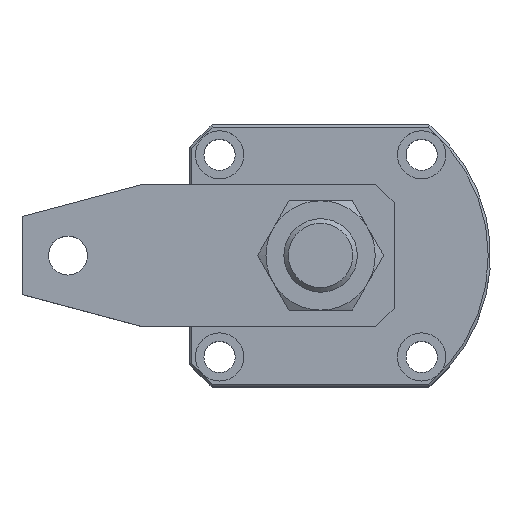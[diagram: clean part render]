
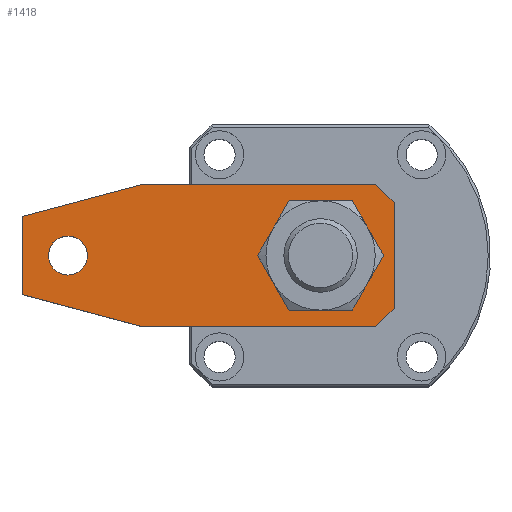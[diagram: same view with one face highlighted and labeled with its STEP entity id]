
A CAD part, top view. The second image highlights one B-rep face of the part: STEP entity #1418.
In plain terms, the highlighted planar face has unit normal (0, 0, 1).
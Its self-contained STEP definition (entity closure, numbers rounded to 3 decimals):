
#127=LINE('',#2831,#175);
#131=LINE('',#2840,#179);
#134=LINE('',#2846,#182);
#137=LINE('',#2852,#185);
#140=LINE('',#2858,#188);
#143=LINE('',#2864,#191);
#146=LINE('',#2870,#194);
#149=LINE('',#2876,#197);
#175=VECTOR('',#2322,1000.);
#179=VECTOR('',#2328,1000.);
#182=VECTOR('',#2333,1000.);
#185=VECTOR('',#2338,1000.);
#188=VECTOR('',#2343,1000.);
#191=VECTOR('',#2348,1000.);
#194=VECTOR('',#2353,1000.);
#197=VECTOR('',#2358,1000.);
#243=PLANE('',#1948);
#561=ORIENTED_EDGE('',*,*,#742,.F.);
#562=ORIENTED_EDGE('',*,*,#743,.F.);
#563=ORIENTED_EDGE('',*,*,#716,.T.);
#564=ORIENTED_EDGE('',*,*,#720,.T.);
#565=ORIENTED_EDGE('',*,*,#723,.T.);
#566=ORIENTED_EDGE('',*,*,#726,.T.);
#567=ORIENTED_EDGE('',*,*,#729,.T.);
#568=ORIENTED_EDGE('',*,*,#732,.T.);
#569=ORIENTED_EDGE('',*,*,#735,.T.);
#570=ORIENTED_EDGE('',*,*,#738,.T.);
#716=EDGE_CURVE('',#849,#850,#127,.T.);
#720=EDGE_CURVE('',#850,#853,#131,.T.);
#723=EDGE_CURVE('',#853,#855,#134,.T.);
#726=EDGE_CURVE('',#855,#857,#137,.T.);
#729=EDGE_CURVE('',#857,#859,#140,.T.);
#732=EDGE_CURVE('',#859,#861,#143,.T.);
#735=EDGE_CURVE('',#861,#863,#146,.T.);
#738=EDGE_CURVE('',#863,#849,#149,.T.);
#742=EDGE_CURVE('',#867,#867,#950,.T.);
#743=EDGE_CURVE('',#868,#868,#951,.T.);
#849=VERTEX_POINT('',#2832);
#850=VERTEX_POINT('',#2833);
#853=VERTEX_POINT('',#2841);
#855=VERTEX_POINT('',#2847);
#857=VERTEX_POINT('',#2853);
#859=VERTEX_POINT('',#2859);
#861=VERTEX_POINT('',#2865);
#863=VERTEX_POINT('',#2871);
#867=VERTEX_POINT('',#2885);
#868=VERTEX_POINT('',#2887);
#950=CIRCLE('',#1949,4.25);
#951=CIRCLE('',#1950,8.5);
#1111=EDGE_LOOP('',(#561));
#1112=EDGE_LOOP('',(#562));
#1113=EDGE_LOOP('',(#563,#564,#565,#566,#567,#568,#569,#570));
#1281=FACE_BOUND('',#1111,.T.);
#1282=FACE_BOUND('',#1112,.T.);
#1283=FACE_BOUND('',#1113,.T.);
#1418=ADVANCED_FACE('',(#1281,#1282,#1283),#243,.F.);
#1948=AXIS2_PLACEMENT_3D('',#2883,#2366,#2367);
#1949=AXIS2_PLACEMENT_3D('',#2884,#2368,#2369);
#1950=AXIS2_PLACEMENT_3D('',#2886,#2370,#2371);
#2322=DIRECTION('',(-0.707,0.707,0.));
#2328=DIRECTION('',(-1.,0.,0.));
#2333=DIRECTION('',(-0.966,-0.259,0.));
#2338=DIRECTION('',(0.,-1.,0.));
#2343=DIRECTION('',(0.966,-0.259,0.));
#2348=DIRECTION('',(1.,0.,0.));
#2353=DIRECTION('',(0.707,0.707,0.));
#2358=DIRECTION('',(0.,1.,0.));
#2366=DIRECTION('',(0.,0.,-1.));
#2367=DIRECTION('',(0.,1.,0.));
#2368=DIRECTION('',(0.,0.,1.));
#2369=DIRECTION('',(1.,0.,0.));
#2370=DIRECTION('',(0.,0.,1.));
#2371=DIRECTION('',(1.,0.,0.));
#2831=CARTESIAN_POINT('',(36.5,31.,8.5));
#2832=CARTESIAN_POINT('',(40.5,27.,8.5));
#2833=CARTESIAN_POINT('',(36.5,31.,8.5));
#2840=CARTESIAN_POINT('',(36.5,31.,8.5));
#2841=CARTESIAN_POINT('',(-14.376,31.,8.5));
#2846=CARTESIAN_POINT('',(-40.5,24.,8.5));
#2847=CARTESIAN_POINT('',(-40.5,24.,8.5));
#2852=CARTESIAN_POINT('',(-40.5,24.,8.5));
#2853=CARTESIAN_POINT('',(-40.5,7.,8.5));
#2858=CARTESIAN_POINT('',(-40.5,7.,8.5));
#2859=CARTESIAN_POINT('',(-14.376,0.,8.5));
#2864=CARTESIAN_POINT('',(-14.376,0.,8.5));
#2865=CARTESIAN_POINT('',(36.5,0.,8.5));
#2870=CARTESIAN_POINT('',(40.5,4.,8.5));
#2871=CARTESIAN_POINT('',(40.5,4.,8.5));
#2876=CARTESIAN_POINT('',(40.5,4.,8.5));
#2883=CARTESIAN_POINT('',(0.,0.,8.5));
#2884=CARTESIAN_POINT('',(-30.5,15.5,8.5));
#2885=CARTESIAN_POINT('',(-26.25,15.5,8.5));
#2886=CARTESIAN_POINT('',(24.5,15.5,8.5));
#2887=CARTESIAN_POINT('',(33.,15.5,8.5));
